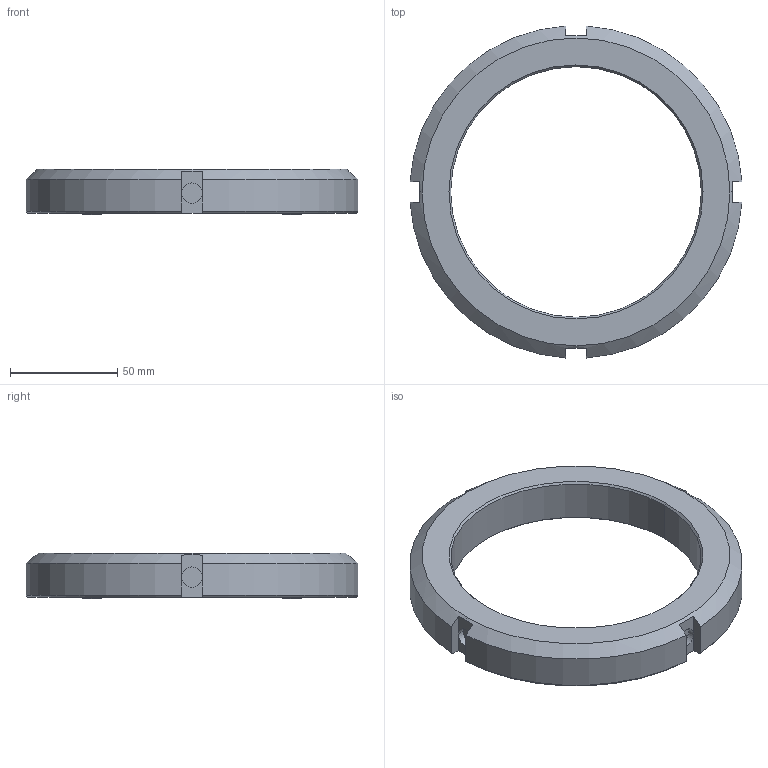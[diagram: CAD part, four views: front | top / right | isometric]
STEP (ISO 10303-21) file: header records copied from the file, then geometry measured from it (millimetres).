
FILE_DESCRIPTION (( 'STEP AP214' ), '1' );
FILE_NAME ('TLN 24.STEP', '2011-08-01T02:51:12', ( '' ), ( '' ), 'SwSTEP 2.0', 'SolidWorks 2010', '' );
FILE_SCHEMA (( 'AUTOMOTIVE_DESIGN' ));
Length unit declared in the file: inch
Products named in the file (3): TLN 24; 125 Pipe Plug
Assembly tree (5 placements, depth 2):
  TLN 24
    125 Pipe Plug  x4
    TLN 24
Bounding box: 154.76 x 154.76 x 21.43 mm (x, y, z)
Volume: 132972.9 mm3; surface area: 42250.3 mm2
Topology: 5 solids, 5 shells, 238 faces, 628 edges, 408 vertices
Faces by surface type: cone 122, plane 62, cylinder 42, bspline 12
Entity records: 8129 total; most frequent: CARTESIAN_POINT 5373, ORIENTED_EDGE 578, DIRECTION 514, EDGE_CURVE 289, AXIS2_PLACEMENT_3D 204, VERTEX_POINT 186, EDGE_LOOP 119, FACE_OUTER_BOUND 112
